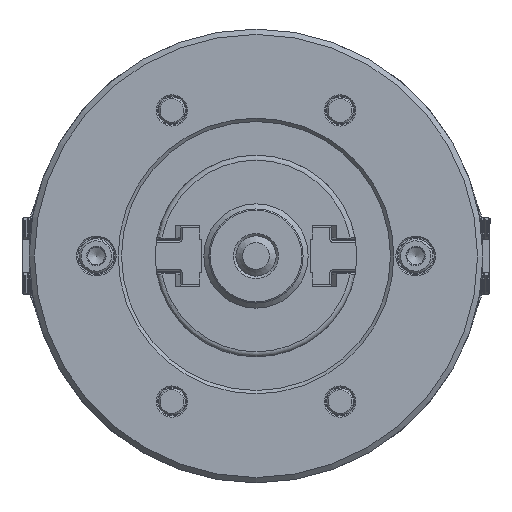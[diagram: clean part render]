
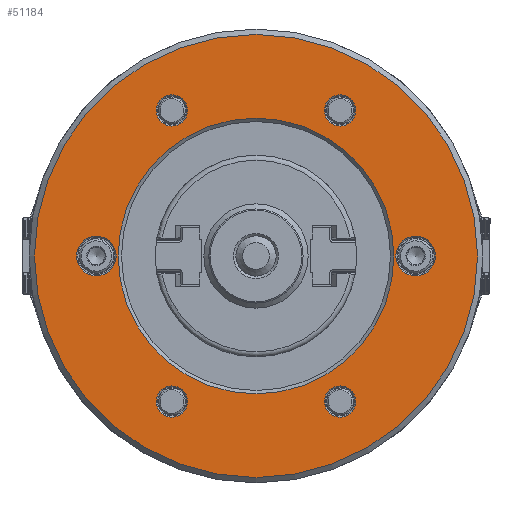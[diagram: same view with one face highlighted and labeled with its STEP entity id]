
A CAD part, left-side view. The second image highlights one B-rep face of the part: STEP entity #51184.
In plain terms, the highlighted planar face has unit normal (-1, 0, 0).
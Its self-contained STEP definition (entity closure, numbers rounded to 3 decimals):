
#461 = CARTESIAN_POINT ( 'NONE',  ( -55., -65.9, 0. ) ) ;
#1250 = EDGE_LOOP ( 'NONE', ( #23454 ) ) ;
#1331 = DIRECTION ( 'NONE',  ( 0., 0., -1. ) ) ;
#3089 = EDGE_CURVE ( 'NONE', #51610, #51610, #70618, .T. ) ;
#4144 = VERTEX_POINT ( 'NONE', #60714 ) ;
#4356 = DIRECTION ( 'NONE',  ( 1., 0., 0. ) ) ;
#5368 = FACE_OUTER_BOUND ( 'NONE', #59415, .T. ) ;
#6210 = CARTESIAN_POINT ( 'NONE',  ( -55., 25., -43.301 ) ) ;
#6791 = ORIENTED_EDGE ( 'NONE', *, *, #3089, .T. ) ;
#6851 = AXIS2_PLACEMENT_3D ( 'NONE', #42628, #43000, #59440 ) ;
#9754 = CARTESIAN_POINT ( 'NONE',  ( -55., 47.5, 0. ) ) ;
#10014 = DIRECTION ( 'NONE',  ( 0., 0., -1. ) ) ;
#13437 = CIRCLE ( 'NONE', #55296, 5.9 ) ;
#13541 = CIRCLE ( 'NONE', #21930, 65.9 ) ;
#14858 = EDGE_CURVE ( 'NONE', #54844, #54844, #50471, .T. ) ;
#15352 = EDGE_CURVE ( 'NONE', #20431, #20431, #13437, .T. ) ;
#16578 = ORIENTED_EDGE ( 'NONE', *, *, #14858, .T. ) ;
#16872 = AXIS2_PLACEMENT_3D ( 'NONE', #461, #67937, #56700 ) ;
#16904 = CARTESIAN_POINT ( 'NONE',  ( -55., -25., 43.301 ) ) ;
#20431 = VERTEX_POINT ( 'NONE', #32059 ) ;
#21178 = EDGE_LOOP ( 'NONE', ( #6791 ) ) ;
#21930 = AXIS2_PLACEMENT_3D ( 'NONE', #30004, #64413, #63666 ) ;
#21935 = FACE_BOUND ( 'NONE', #27913, .T. ) ;
#22151 = DIRECTION ( 'NONE',  ( 0., 0., -1. ) ) ;
#22156 = DIRECTION ( 'NONE',  ( -1., 0., 0. ) ) ;
#23454 = ORIENTED_EDGE ( 'NONE', *, *, #43016, .T. ) ;
#23869 = DIRECTION ( 'NONE',  ( 1., 0., 0. ) ) ;
#24745 = EDGE_LOOP ( 'NONE', ( #69722 ) ) ;
#25697 = EDGE_LOOP ( 'NONE', ( #16578 ) ) ;
#25881 = EDGE_CURVE ( 'NONE', #60806, #60806, #49143, .T. ) ;
#27070 = DIRECTION ( 'NONE',  ( 0., 0., -1. ) ) ;
#27227 = CIRCLE ( 'NONE', #41536, 4.65 ) ;
#27410 = DIRECTION ( 'NONE',  ( 0., 0., 1. ) ) ;
#27913 = EDGE_LOOP ( 'NONE', ( #59005 ) ) ;
#28290 = FACE_BOUND ( 'NONE', #24745, .T. ) ;
#28653 = FACE_BOUND ( 'NONE', #61164, .T. ) ;
#30004 = CARTESIAN_POINT ( 'NONE',  ( -55., 0., 0. ) ) ;
#30813 = CIRCLE ( 'NONE', #51101, 41. ) ;
#31006 = ORIENTED_EDGE ( 'NONE', *, *, #43935, .F. ) ;
#32059 = CARTESIAN_POINT ( 'NONE',  ( -55., 47.5, 5.9 ) ) ;
#32424 = CARTESIAN_POINT ( 'NONE',  ( -55., -25., 38.651 ) ) ;
#38632 = DIRECTION ( 'NONE',  ( 1., 0., 0. ) ) ;
#39793 = AXIS2_PLACEMENT_3D ( 'NONE', #41855, #64654, #1331 ) ;
#40591 = FACE_BOUND ( 'NONE', #1250, .T. ) ;
#40754 = CARTESIAN_POINT ( 'NONE',  ( -55., 25., -47.951 ) ) ;
#40964 = ORIENTED_EDGE ( 'NONE', *, *, #61669, .F. ) ;
#41536 = AXIS2_PLACEMENT_3D ( 'NONE', #67455, #71968, #27070 ) ;
#41855 = CARTESIAN_POINT ( 'NONE',  ( -55., -25., -43.301 ) ) ;
#42628 = CARTESIAN_POINT ( 'NONE',  ( -55., -47.5, 0. ) ) ;
#42825 = EDGE_CURVE ( 'NONE', #47306, #47306, #27227, .T. ) ;
#42902 = CARTESIAN_POINT ( 'NONE',  ( -55., -25., -47.951 ) ) ;
#43000 = DIRECTION ( 'NONE',  ( -1., 0., 0. ) ) ;
#43016 = EDGE_CURVE ( 'NONE', #48050, #48050, #30813, .T. ) ;
#43935 = EDGE_CURVE ( 'NONE', #46938, #46938, #13541, .T. ) ;
#44891 = CARTESIAN_POINT ( 'NONE',  ( -55., 0., 0. ) ) ;
#45142 = PLANE ( 'NONE',  #16872 ) ;
#46224 = FACE_BOUND ( 'NONE', #25697, .T. ) ;
#46938 = VERTEX_POINT ( 'NONE', #52152 ) ;
#47306 = VERTEX_POINT ( 'NONE', #65246 ) ;
#48050 = VERTEX_POINT ( 'NONE', #64889 ) ;
#49143 = CIRCLE ( 'NONE', #55061, 4.65 ) ;
#50471 = CIRCLE ( 'NONE', #39793, 4.65 ) ;
#51101 = AXIS2_PLACEMENT_3D ( 'NONE', #44891, #4356, #10014 ) ;
#51184 = ADVANCED_FACE ( 'NONE', ( #51450, #63035, #21935, #28290, #46224, #28653, #5368, #40591 ), #45142, .F. ) ;
#51217 = DIRECTION ( 'NONE',  ( 0., 0., -1. ) ) ;
#51450 = FACE_BOUND ( 'NONE', #57151, .T. ) ;
#51610 = VERTEX_POINT ( 'NONE', #40754 ) ;
#52152 = CARTESIAN_POINT ( 'NONE',  ( -55., 0., -65.9 ) ) ;
#52530 = ORIENTED_EDGE ( 'NONE', *, *, #25881, .T. ) ;
#54844 = VERTEX_POINT ( 'NONE', #42902 ) ;
#55061 = AXIS2_PLACEMENT_3D ( 'NONE', #16904, #38632, #22151 ) ;
#55296 = AXIS2_PLACEMENT_3D ( 'NONE', #9754, #22156, #27410 ) ;
#56700 = DIRECTION ( 'NONE',  ( 0., 0., -1. ) ) ;
#57151 = EDGE_LOOP ( 'NONE', ( #40964 ) ) ;
#59005 = ORIENTED_EDGE ( 'NONE', *, *, #42825, .T. ) ;
#59415 = EDGE_LOOP ( 'NONE', ( #31006 ) ) ;
#59440 = DIRECTION ( 'NONE',  ( 0., 0., 1. ) ) ;
#60714 = CARTESIAN_POINT ( 'NONE',  ( -55., -47.5, 5.9 ) ) ;
#60806 = VERTEX_POINT ( 'NONE', #32424 ) ;
#61022 = AXIS2_PLACEMENT_3D ( 'NONE', #6210, #23869, #51217 ) ;
#61164 = EDGE_LOOP ( 'NONE', ( #52530 ) ) ;
#61669 = EDGE_CURVE ( 'NONE', #4144, #4144, #72634, .T. ) ;
#63035 = FACE_BOUND ( 'NONE', #21178, .T. ) ;
#63666 = DIRECTION ( 'NONE',  ( 0., 0., -1. ) ) ;
#64413 = DIRECTION ( 'NONE',  ( 1., 0., 0. ) ) ;
#64654 = DIRECTION ( 'NONE',  ( 1., 0., 0. ) ) ;
#64889 = CARTESIAN_POINT ( 'NONE',  ( -55., 0., -41. ) ) ;
#65246 = CARTESIAN_POINT ( 'NONE',  ( -55., 25., 38.651 ) ) ;
#67455 = CARTESIAN_POINT ( 'NONE',  ( -55., 25., 43.301 ) ) ;
#67937 = DIRECTION ( 'NONE',  ( 1., 0., 0. ) ) ;
#69722 = ORIENTED_EDGE ( 'NONE', *, *, #15352, .F. ) ;
#70618 = CIRCLE ( 'NONE', #61022, 4.65 ) ;
#71968 = DIRECTION ( 'NONE',  ( 1., 0., 0. ) ) ;
#72634 = CIRCLE ( 'NONE', #6851, 5.9 ) ;
